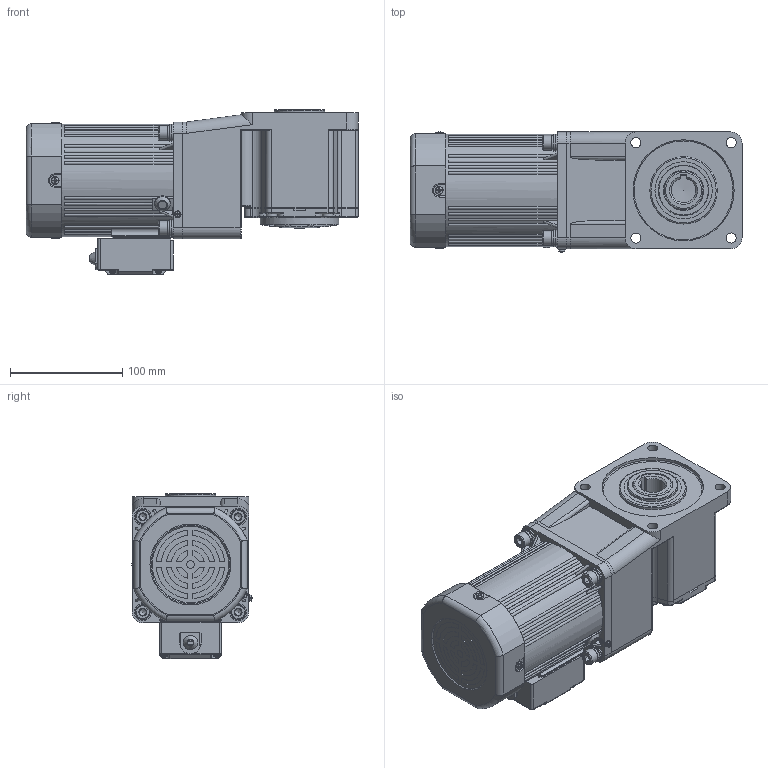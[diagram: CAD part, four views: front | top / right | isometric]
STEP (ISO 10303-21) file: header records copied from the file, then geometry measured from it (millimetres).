
FILE_DESCRIPTION(/* description */ (''),/* implementation_level */ '2;1');
FILE_NAME(/* name */ '100+直角中空-风叶-120-140W 新版标准接线盒.stp',/* time_stamp */ '2025-11-26T09:21:46+08:00',/* author */ (''),/* organization */ (''),/* preprocessor_version */ 'ST-DEVELOPER v18.102',/* originating_system */ 'SIEMENS PLM Software NX 2027',/* authorisation */ '');
FILE_SCHEMA (('AUTOMOTIVE_DESIGN { 1 0 10303 214 3 1 1 1 }'));
Products named in the file (1): 100+直角中空-风叶-120-140W 新版标准接线盒_
stp
Bounding box: 295.5 x 106.83 x 147.5 mm (x, y, z)
Volume: 2860562.7 mm3; surface area: 420666.5 mm2
Topology: 25 solids, 25 shells, 2502 faces, 6477 edges, 4141 vertices
Faces by surface type: plane 1108, cylinder 814, bspline 221, torus 170, cone 143, sphere 46
Full cylindrical faces by diameter (mm): 2.2 x2, 2.6 x2, 2.7 x1, 2.9 x4, 3 x17, 3.2 x2, 3.3 x2, 3.5 x8, 3.6 x4, 4 x4, 4.2 x1, 4.55 x2, 4.8 x1, 5.1 x2, 5.15 x2, 5.6 x4, 6 x12, 6.8 x12, 7 x3, 7.5 x2, 7.76 x4, 8 x1, 8.4 x4, 9 x13, 9.3 x1, 9.5 x4, 10 x2, 13 x4, 14 x8, 15 x5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
Entity records: 76699 total; most frequent: CARTESIAN_POINT 18596, ORIENTED_EDGE 11914, DIRECTION 11653, EDGE_CURVE 5957, AXIS2_PLACEMENT_3D 4495, VERTEX_POINT 4004, EDGE_LOOP 3082, LINE 2663
